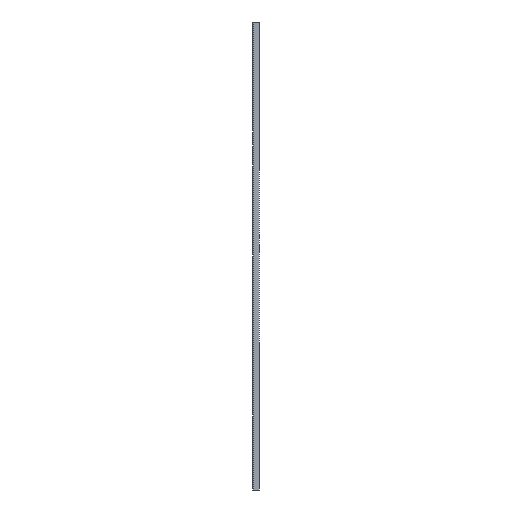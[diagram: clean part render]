
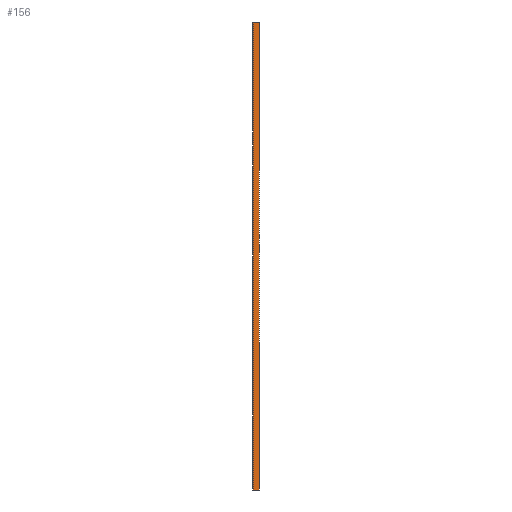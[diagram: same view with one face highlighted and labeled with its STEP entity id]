
A CAD part, left-side view. The second image highlights one B-rep face of the part: STEP entity #156.
In plain terms, the highlighted planar face has unit normal (-1, 0, 0).
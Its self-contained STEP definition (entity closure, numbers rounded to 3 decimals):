
#53 = ORIENTED_EDGE ( 'NONE', *, *, #1062, .T. ) ;
#125 = ORIENTED_EDGE ( 'NONE', *, *, #1097, .T. ) ;
#148 = LINE ( 'NONE', #1077, #699 ) ;
#156 = ADVANCED_FACE ( 'NONE', ( #463 ), #817, .T. ) ;
#168 = VERTEX_POINT ( 'NONE', #472 ) ;
#215 = DIRECTION ( 'NONE',  ( 0., 0., 1. ) ) ;
#221 = CARTESIAN_POINT ( 'NONE',  ( -811.5, -20., 150. ) ) ;
#254 = LINE ( 'NONE', #616, #1063 ) ;
#258 = ORIENTED_EDGE ( 'NONE', *, *, #309, .F. ) ;
#309 = EDGE_CURVE ( 'NONE', #168, #580, #469, .T. ) ;
#343 = EDGE_CURVE ( 'NONE', #580, #891, #254, .T. ) ;
#463 = FACE_OUTER_BOUND ( 'NONE', #781, .T. ) ;
#469 = LINE ( 'NONE', #824, #495 ) ;
#472 = CARTESIAN_POINT ( 'NONE',  ( -811.5, -20., -1250. ) ) ;
#495 = VECTOR ( 'NONE', #657, 1000. ) ;
#580 = VERTEX_POINT ( 'NONE', #609 ) ;
#582 = DIRECTION ( 'NONE',  ( 0., 0., 1. ) ) ;
#609 = CARTESIAN_POINT ( 'NONE',  ( -811.5, 0., -1250. ) ) ;
#616 = CARTESIAN_POINT ( 'NONE',  ( -811.5, 0., -1250. ) ) ;
#636 = CARTESIAN_POINT ( 'NONE',  ( -811.5, 0., 150. ) ) ;
#650 = DIRECTION ( 'NONE',  ( 0., 1., 0. ) ) ;
#656 = CARTESIAN_POINT ( 'NONE',  ( -811.5, -20., -1250. ) ) ;
#657 = DIRECTION ( 'NONE',  ( 0., 1., 0. ) ) ;
#663 = LINE ( 'NONE', #671, #1065 ) ;
#671 = CARTESIAN_POINT ( 'NONE',  ( -811.5, -20., -1250. ) ) ;
#674 = ORIENTED_EDGE ( 'NONE', *, *, #343, .F. ) ;
#699 = VECTOR ( 'NONE', #650, 1000. ) ;
#714 = DIRECTION ( 'NONE',  ( 0., 0., 1. ) ) ;
#781 = EDGE_LOOP ( 'NONE', ( #674, #258, #53, #125 ) ) ;
#817 = PLANE ( 'NONE',  #908 ) ;
#824 = CARTESIAN_POINT ( 'NONE',  ( -811.5, -20., -1250. ) ) ;
#891 = VERTEX_POINT ( 'NONE', #636 ) ;
#908 = AXIS2_PLACEMENT_3D ( 'NONE', #656, #1005, #215 ) ;
#1005 = DIRECTION ( 'NONE',  ( -1., 0., 0. ) ) ;
#1057 = VERTEX_POINT ( 'NONE', #221 ) ;
#1062 = EDGE_CURVE ( 'NONE', #168, #1057, #663, .T. ) ;
#1063 = VECTOR ( 'NONE', #714, 1000. ) ;
#1065 = VECTOR ( 'NONE', #582, 1000. ) ;
#1077 = CARTESIAN_POINT ( 'NONE',  ( -811.5, -20., 150. ) ) ;
#1097 = EDGE_CURVE ( 'NONE', #1057, #891, #148, .T. ) ;
